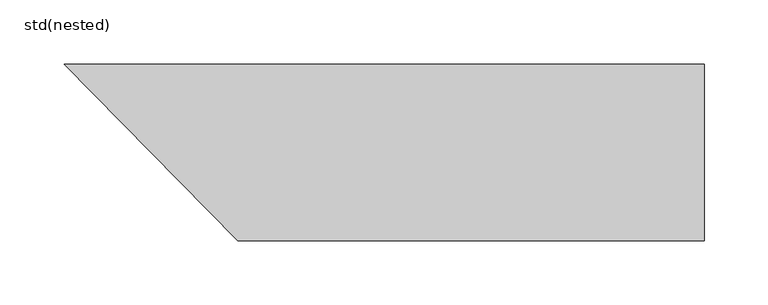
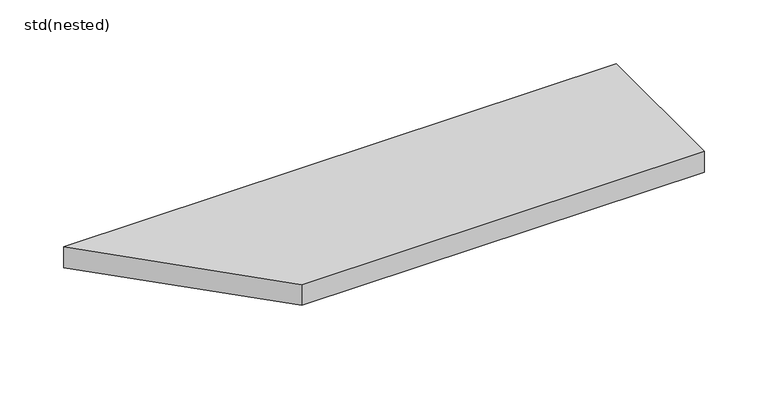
"""IFC4 building model written with IfcOpenShell, lengths in millimetres: sanitary terminal geometry, ZZZ_do not use_PF_ST_SlabDrain_H100SK_gratings_USA_ACO : std(nested)."""

from ifc_helpers import new_model, si_unit, frame, origin, place, context, project, spatial, polyline, outline, extrude, source, transform, mapped, element, save


def std_nested_716bf231(model_context):
    return source(origin(), model_context, "Body", "SweptSolid", [
        extrude(outline(polyline([(250.0, 69.0), (250.0, -69.0), (-114.3877777, -69.0), (-250.0, 69.0), (250.0, 69.0)])), frame((0.0, 0.0, -20.0), z_axis=(0.0, 0.0, 1.0), x_axis=(1.0, 0.0, 0.0)), (0.0, 0.0, 1.0), 20.0),
    ])


if __name__ == "__main__":
    model = new_model("IFC4")
    model_context = context("Model", 3, world=origin())
    ifc_project = project(units=[si_unit("LENGTHUNIT", "METRE", prefix="MILLI")], contexts=[model_context])
    site = spatial("IfcSite", under=ifc_project)
    building = spatial("IfcBuilding", under=site)
    placement = place(None, origin())
    std_nested_shape = std_nested_716bf231(model_context)
    element("IfcSanitaryTerminal", 1, ObjectType="ZZZ_do not use_PF_ST_SlabDrain_H100SK_gratings_USA_ACO : std(nested)", at=placement, inside=building, context=model_context, shape_type="MappedRepresentation", body=[
        mapped(std_nested_shape, transform((0.0, 0.0, 0.0), x_axis=(1.0, 0.0, 0.0), y_axis=(0.0, 1.0, 0.0), z_axis=(0.0, 0.0, 1.0))),
    ])
    save(model, "model.ifc")
